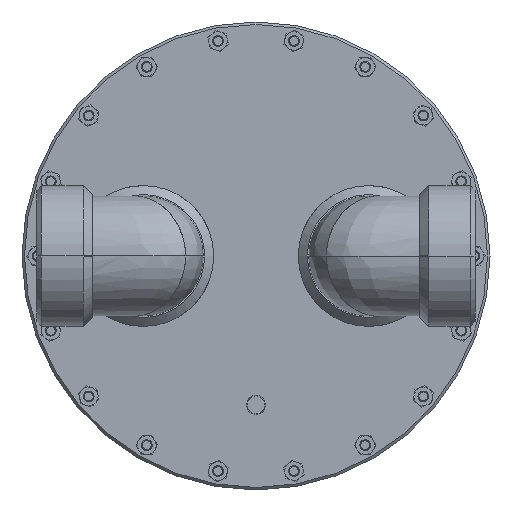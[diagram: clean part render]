
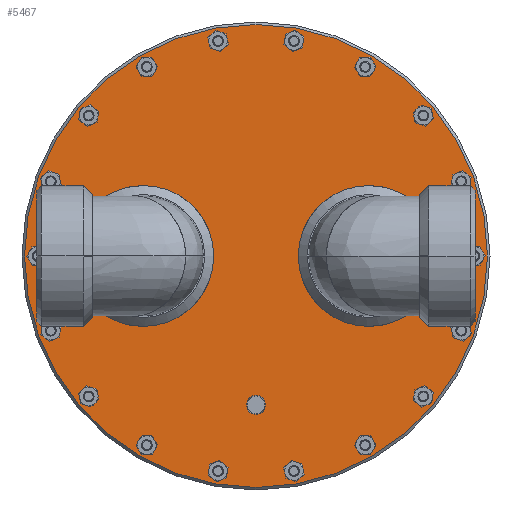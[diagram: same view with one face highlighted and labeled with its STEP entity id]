
A CAD part, front view. The second image highlights one B-rep face of the part: STEP entity #5467.
In plain terms, the highlighted planar face has unit normal (0, -1, 0) as drawn and (0, 0, -1) by its records, which use the part's own axes.
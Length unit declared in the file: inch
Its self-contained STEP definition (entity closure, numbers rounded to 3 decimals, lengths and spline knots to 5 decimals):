
#1094=PLANE('',#5891);
#1384=FACE_BOUND('',#1971,.T.);
#1385=FACE_BOUND('',#1972,.T.);
#1386=FACE_BOUND('',#1973,.T.);
#1387=FACE_BOUND('',#1974,.T.);
#1388=FACE_BOUND('',#1975,.T.);
#1389=FACE_BOUND('',#1976,.T.);
#1390=FACE_BOUND('',#1977,.T.);
#1391=FACE_BOUND('',#1978,.T.);
#1392=FACE_BOUND('',#1979,.T.);
#1393=FACE_BOUND('',#1980,.T.);
#1394=FACE_BOUND('',#1981,.T.);
#1395=FACE_BOUND('',#1982,.T.);
#1396=FACE_BOUND('',#1983,.T.);
#1397=FACE_BOUND('',#1984,.T.);
#1398=FACE_BOUND('',#1985,.T.);
#1399=FACE_BOUND('',#1986,.T.);
#1400=FACE_BOUND('',#1987,.T.);
#1401=FACE_BOUND('',#1988,.T.);
#1402=FACE_BOUND('',#1989,.T.);
#1403=FACE_BOUND('',#1990,.T.);
#1404=FACE_BOUND('',#1991,.T.);
#1551=FACE_OUTER_BOUND('',#1970,.T.);
#1970=EDGE_LOOP('',(#4427));
#1971=EDGE_LOOP('',(#4428));
#1972=EDGE_LOOP('',(#4429));
#1973=EDGE_LOOP('',(#4430));
#1974=EDGE_LOOP('',(#4431));
#1975=EDGE_LOOP('',(#4432));
#1976=EDGE_LOOP('',(#4433));
#1977=EDGE_LOOP('',(#4434));
#1978=EDGE_LOOP('',(#4435));
#1979=EDGE_LOOP('',(#4436));
#1980=EDGE_LOOP('',(#4437));
#1981=EDGE_LOOP('',(#4438));
#1982=EDGE_LOOP('',(#4439));
#1983=EDGE_LOOP('',(#4440));
#1984=EDGE_LOOP('',(#4441));
#1985=EDGE_LOOP('',(#4442));
#1986=EDGE_LOOP('',(#4443));
#1987=EDGE_LOOP('',(#4444));
#1988=EDGE_LOOP('',(#4445));
#1989=EDGE_LOOP('',(#4446));
#1990=EDGE_LOOP('',(#4447));
#1991=EDGE_LOOP('',(#4448));
#2335=CIRCLE('',#5890,5.44);
#2336=CIRCLE('',#5892,0.1285);
#2337=CIRCLE('',#5893,0.1285);
#2338=CIRCLE('',#5894,0.1285);
#2339=CIRCLE('',#5895,0.1285);
#2340=CIRCLE('',#5896,0.1285);
#2341=CIRCLE('',#5897,0.1285);
#2342=CIRCLE('',#5898,0.1285);
#2343=CIRCLE('',#5899,0.1285);
#2344=CIRCLE('',#5900,0.1285);
#2345=CIRCLE('',#5901,0.1285);
#2346=CIRCLE('',#5902,0.1285);
#2347=CIRCLE('',#5903,0.1285);
#2348=CIRCLE('',#5904,0.1285);
#2349=CIRCLE('',#5905,0.1285);
#2350=CIRCLE('',#5906,0.1285);
#2351=CIRCLE('',#5907,0.1285);
#2352=CIRCLE('',#5908,0.1285);
#2353=CIRCLE('',#5909,0.1285);
#2354=CIRCLE('',#5910,1.1875);
#2355=CIRCLE('',#5911,1.1875);
#2356=CIRCLE('',#5912,0.22359);
#2644=VERTEX_POINT('',#8096);
#2645=VERTEX_POINT('',#8099);
#2646=VERTEX_POINT('',#8101);
#2647=VERTEX_POINT('',#8103);
#2648=VERTEX_POINT('',#8105);
#2649=VERTEX_POINT('',#8107);
#2650=VERTEX_POINT('',#8109);
#2651=VERTEX_POINT('',#8111);
#2652=VERTEX_POINT('',#8113);
#2653=VERTEX_POINT('',#8115);
#2654=VERTEX_POINT('',#8117);
#2655=VERTEX_POINT('',#8119);
#2656=VERTEX_POINT('',#8121);
#2657=VERTEX_POINT('',#8123);
#2658=VERTEX_POINT('',#8125);
#2659=VERTEX_POINT('',#8127);
#2660=VERTEX_POINT('',#8129);
#2661=VERTEX_POINT('',#8131);
#2662=VERTEX_POINT('',#8133);
#2663=VERTEX_POINT('',#8135);
#2664=VERTEX_POINT('',#8137);
#2665=VERTEX_POINT('',#8139);
#3431=EDGE_CURVE('',#2644,#2644,#2335,.T.);
#3432=EDGE_CURVE('',#2645,#2645,#2336,.T.);
#3433=EDGE_CURVE('',#2646,#2646,#2337,.T.);
#3434=EDGE_CURVE('',#2647,#2647,#2338,.T.);
#3435=EDGE_CURVE('',#2648,#2648,#2339,.T.);
#3436=EDGE_CURVE('',#2649,#2649,#2340,.T.);
#3437=EDGE_CURVE('',#2650,#2650,#2341,.T.);
#3438=EDGE_CURVE('',#2651,#2651,#2342,.T.);
#3439=EDGE_CURVE('',#2652,#2652,#2343,.T.);
#3440=EDGE_CURVE('',#2653,#2653,#2344,.T.);
#3441=EDGE_CURVE('',#2654,#2654,#2345,.T.);
#3442=EDGE_CURVE('',#2655,#2655,#2346,.T.);
#3443=EDGE_CURVE('',#2656,#2656,#2347,.T.);
#3444=EDGE_CURVE('',#2657,#2657,#2348,.T.);
#3445=EDGE_CURVE('',#2658,#2658,#2349,.T.);
#3446=EDGE_CURVE('',#2659,#2659,#2350,.T.);
#3447=EDGE_CURVE('',#2660,#2660,#2351,.T.);
#3448=EDGE_CURVE('',#2661,#2661,#2352,.T.);
#3449=EDGE_CURVE('',#2662,#2662,#2353,.T.);
#3450=EDGE_CURVE('',#2663,#2663,#2354,.T.);
#3451=EDGE_CURVE('',#2664,#2664,#2355,.T.);
#3452=EDGE_CURVE('',#2665,#2665,#2356,.T.);
#4427=ORIENTED_EDGE('',*,*,#3431,.F.);
#4428=ORIENTED_EDGE('',*,*,#3432,.T.);
#4429=ORIENTED_EDGE('',*,*,#3433,.T.);
#4430=ORIENTED_EDGE('',*,*,#3434,.T.);
#4431=ORIENTED_EDGE('',*,*,#3435,.T.);
#4432=ORIENTED_EDGE('',*,*,#3436,.T.);
#4433=ORIENTED_EDGE('',*,*,#3437,.T.);
#4434=ORIENTED_EDGE('',*,*,#3438,.T.);
#4435=ORIENTED_EDGE('',*,*,#3439,.T.);
#4436=ORIENTED_EDGE('',*,*,#3440,.T.);
#4437=ORIENTED_EDGE('',*,*,#3441,.T.);
#4438=ORIENTED_EDGE('',*,*,#3442,.T.);
#4439=ORIENTED_EDGE('',*,*,#3443,.T.);
#4440=ORIENTED_EDGE('',*,*,#3444,.T.);
#4441=ORIENTED_EDGE('',*,*,#3445,.T.);
#4442=ORIENTED_EDGE('',*,*,#3446,.T.);
#4443=ORIENTED_EDGE('',*,*,#3447,.T.);
#4444=ORIENTED_EDGE('',*,*,#3448,.T.);
#4445=ORIENTED_EDGE('',*,*,#3449,.T.);
#4446=ORIENTED_EDGE('',*,*,#3450,.T.);
#4447=ORIENTED_EDGE('',*,*,#3451,.T.);
#4448=ORIENTED_EDGE('',*,*,#3452,.T.);
#5467=ADVANCED_FACE('',(#1551,#1384,#1385,#1386,#1387,#1388,#1389,#1390,
#1391,#1392,#1393,#1394,#1395,#1396,#1397,#1398,#1399,#1400,#1401,#1402,
#1403,#1404),#1094,.T.);
#5890=AXIS2_PLACEMENT_3D('',#8097,#6809,#6810);
#5891=AXIS2_PLACEMENT_3D('',#8098,#6811,#6812);
#5892=AXIS2_PLACEMENT_3D('',#8100,#6813,#6814);
#5893=AXIS2_PLACEMENT_3D('',#8102,#6815,#6816);
#5894=AXIS2_PLACEMENT_3D('',#8104,#6817,#6818);
#5895=AXIS2_PLACEMENT_3D('',#8106,#6819,#6820);
#5896=AXIS2_PLACEMENT_3D('',#8108,#6821,#6822);
#5897=AXIS2_PLACEMENT_3D('',#8110,#6823,#6824);
#5898=AXIS2_PLACEMENT_3D('',#8112,#6825,#6826);
#5899=AXIS2_PLACEMENT_3D('',#8114,#6827,#6828);
#5900=AXIS2_PLACEMENT_3D('',#8116,#6829,#6830);
#5901=AXIS2_PLACEMENT_3D('',#8118,#6831,#6832);
#5902=AXIS2_PLACEMENT_3D('',#8120,#6833,#6834);
#5903=AXIS2_PLACEMENT_3D('',#8122,#6835,#6836);
#5904=AXIS2_PLACEMENT_3D('',#8124,#6837,#6838);
#5905=AXIS2_PLACEMENT_3D('',#8126,#6839,#6840);
#5906=AXIS2_PLACEMENT_3D('',#8128,#6841,#6842);
#5907=AXIS2_PLACEMENT_3D('',#8130,#6843,#6844);
#5908=AXIS2_PLACEMENT_3D('',#8132,#6845,#6846);
#5909=AXIS2_PLACEMENT_3D('',#8134,#6847,#6848);
#5910=AXIS2_PLACEMENT_3D('',#8136,#6849,#6850);
#5911=AXIS2_PLACEMENT_3D('',#8138,#6851,#6852);
#5912=AXIS2_PLACEMENT_3D('',#8140,#6853,#6854);
#6809=DIRECTION('center_axis',(0.,0.,1.));
#6810=DIRECTION('ref_axis',(-1.,0.,0.));
#6811=DIRECTION('center_axis',(0.,0.,-1.));
#6812=DIRECTION('ref_axis',(-1.,0.,0.));
#6813=DIRECTION('center_axis',(0.,0.,1.));
#6814=DIRECTION('ref_axis',(1.,0.,0.));
#6815=DIRECTION('center_axis',(0.,0.,1.));
#6816=DIRECTION('ref_axis',(1.,0.,0.));
#6817=DIRECTION('center_axis',(0.,0.,1.));
#6818=DIRECTION('ref_axis',(1.,0.,0.));
#6819=DIRECTION('center_axis',(0.,0.,1.));
#6820=DIRECTION('ref_axis',(1.,0.,0.));
#6821=DIRECTION('center_axis',(0.,0.,1.));
#6822=DIRECTION('ref_axis',(1.,0.,0.));
#6823=DIRECTION('center_axis',(0.,0.,1.));
#6824=DIRECTION('ref_axis',(1.,0.,0.));
#6825=DIRECTION('center_axis',(0.,0.,1.));
#6826=DIRECTION('ref_axis',(1.,0.,0.));
#6827=DIRECTION('center_axis',(0.,0.,1.));
#6828=DIRECTION('ref_axis',(1.,0.,0.));
#6829=DIRECTION('center_axis',(0.,0.,1.));
#6830=DIRECTION('ref_axis',(1.,0.,0.));
#6831=DIRECTION('center_axis',(0.,0.,1.));
#6832=DIRECTION('ref_axis',(1.,0.,0.));
#6833=DIRECTION('center_axis',(0.,0.,1.));
#6834=DIRECTION('ref_axis',(1.,0.,0.));
#6835=DIRECTION('center_axis',(0.,0.,1.));
#6836=DIRECTION('ref_axis',(1.,0.,0.));
#6837=DIRECTION('center_axis',(0.,0.,1.));
#6838=DIRECTION('ref_axis',(1.,0.,0.));
#6839=DIRECTION('center_axis',(0.,0.,1.));
#6840=DIRECTION('ref_axis',(1.,0.,0.));
#6841=DIRECTION('center_axis',(0.,0.,1.));
#6842=DIRECTION('ref_axis',(1.,0.,0.));
#6843=DIRECTION('center_axis',(0.,0.,1.));
#6844=DIRECTION('ref_axis',(1.,0.,0.));
#6845=DIRECTION('center_axis',(0.,0.,1.));
#6846=DIRECTION('ref_axis',(1.,0.,0.));
#6847=DIRECTION('center_axis',(0.,0.,1.));
#6848=DIRECTION('ref_axis',(1.,0.,0.));
#6849=DIRECTION('center_axis',(0.,0.,1.));
#6850=DIRECTION('ref_axis',(-1.,0.,0.));
#6851=DIRECTION('center_axis',(0.,0.,1.));
#6852=DIRECTION('ref_axis',(-1.,0.,0.));
#6853=DIRECTION('center_axis',(0.,0.,1.));
#6854=DIRECTION('ref_axis',(-1.,0.,0.));
#8096=CARTESIAN_POINT('',(5.44,0.,0.));
#8097=CARTESIAN_POINT('Origin',(0.,0.,0.));
#8098=CARTESIAN_POINT('Origin',(0.,0.,0.));
#8099=CARTESIAN_POINT('',(5.0045,0.,0.));
#8100=CARTESIAN_POINT('Origin',(5.133,0.,0.));
#8101=CARTESIAN_POINT('',(4.69494,1.75559,0.));
#8102=CARTESIAN_POINT('Origin',(4.82344,1.75559,0.));
#8103=CARTESIAN_POINT('',(3.80361,3.29943,0.));
#8104=CARTESIAN_POINT('Origin',(3.93211,3.29943,0.));
#8105=CARTESIAN_POINT('',(2.438,4.44531,0.));
#8106=CARTESIAN_POINT('Origin',(2.5665,4.44531,0.));
#8107=CARTESIAN_POINT('',(0.76284,5.05502,0.));
#8108=CARTESIAN_POINT('Origin',(0.89134,5.05502,0.));
#8109=CARTESIAN_POINT('',(-1.01984,5.05502,0.));
#8110=CARTESIAN_POINT('Origin',(-0.89134,5.05502,0.));
#8111=CARTESIAN_POINT('',(-2.695,4.44531,0.));
#8112=CARTESIAN_POINT('Origin',(-2.5665,4.44531,0.));
#8113=CARTESIAN_POINT('',(-4.06061,3.29943,0.));
#8114=CARTESIAN_POINT('Origin',(-3.93211,3.29943,0.));
#8115=CARTESIAN_POINT('',(-4.95194,1.75559,0.));
#8116=CARTESIAN_POINT('Origin',(-4.82344,1.75559,0.));
#8117=CARTESIAN_POINT('',(-5.2615,0.,0.));
#8118=CARTESIAN_POINT('Origin',(-5.133,0.,0.));
#8119=CARTESIAN_POINT('',(-4.95194,-1.75559,0.));
#8120=CARTESIAN_POINT('Origin',(-4.82344,-1.75559,0.));
#8121=CARTESIAN_POINT('',(-4.06061,-3.29943,0.));
#8122=CARTESIAN_POINT('Origin',(-3.93211,-3.29943,0.));
#8123=CARTESIAN_POINT('',(4.69494,-1.75559,0.));
#8124=CARTESIAN_POINT('Origin',(4.82344,-1.75559,0.));
#8125=CARTESIAN_POINT('',(3.80361,-3.29943,0.));
#8126=CARTESIAN_POINT('Origin',(3.93211,-3.29943,0.));
#8127=CARTESIAN_POINT('',(2.438,-4.44531,0.));
#8128=CARTESIAN_POINT('Origin',(2.5665,-4.44531,0.));
#8129=CARTESIAN_POINT('',(0.76284,-5.05502,0.));
#8130=CARTESIAN_POINT('Origin',(0.89134,-5.05502,0.));
#8131=CARTESIAN_POINT('',(-1.01984,-5.05502,0.));
#8132=CARTESIAN_POINT('Origin',(-0.89134,-5.05502,0.));
#8133=CARTESIAN_POINT('',(-2.695,-4.44531,0.));
#8134=CARTESIAN_POINT('Origin',(-2.5665,-4.44531,0.));
#8135=CARTESIAN_POINT('',(-1.4625,0.,0.));
#8136=CARTESIAN_POINT('Origin',(-2.65,0.,0.));
#8137=CARTESIAN_POINT('',(3.8375,0.,0.));
#8138=CARTESIAN_POINT('Origin',(2.65,0.,0.));
#8139=CARTESIAN_POINT('',(-0.22359,3.5,0.));
#8140=CARTESIAN_POINT('Origin',(0.,3.5,0.));
